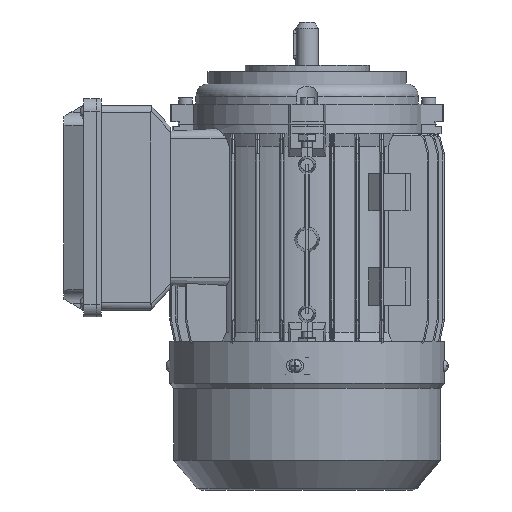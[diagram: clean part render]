
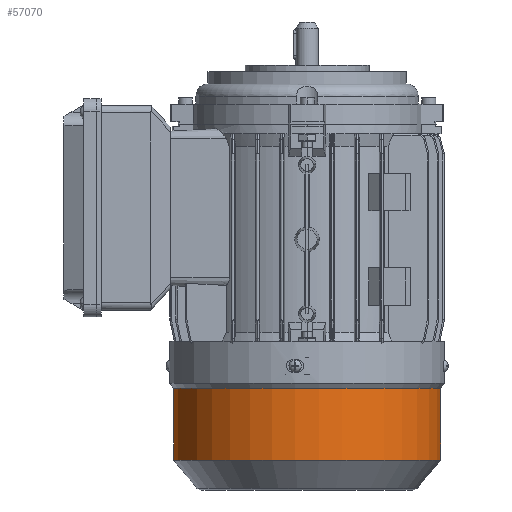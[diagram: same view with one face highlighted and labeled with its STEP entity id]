
A CAD part, left-side view. The second image highlights one B-rep face of the part: STEP entity #57070.
In plain terms, the highlighted cylindrical face has radius 54 mm (diameter 108 mm), a partial arc.
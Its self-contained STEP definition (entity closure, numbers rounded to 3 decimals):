
#2618 = ORIENTED_EDGE ( 'NONE', *, *, #19078, .F. ) ;
#2719 = ORIENTED_EDGE ( 'NONE', *, *, #19079, .T. ) ;
#9904 = FACE_OUTER_BOUND ( 'NONE', #38766, .T. ) ;
#9907 = CYLINDRICAL_SURFACE ( 'NONE', #11364, 54. ) ;
#11364 = AXIS2_PLACEMENT_3D ( 'NONE', #14594, #14592, #14590 ) ;
#14590 = DIRECTION ( 'NONE',  ( 0., 0., 1. ) ) ;
#14592 = DIRECTION ( 'NONE',  ( 0., 1., 0. ) ) ;
#14594 = CARTESIAN_POINT ( 'NONE',  ( 0., 66., 0. ) ) ;
#15613 = LINE ( 'NONE', #25968, #15622 ) ;
#15621 = LINE ( 'NONE', #25972, #15624 ) ;
#15622 = VECTOR ( 'NONE', #25965, 1000. ) ;
#15624 = VECTOR ( 'NONE', #25974, 1000. ) ;
#19078 = EDGE_CURVE ( 'NONE', #53698, #53652, #15613, .T. ) ;
#19079 = EDGE_CURVE ( 'NONE', #53077, #53341, #15621, .T. ) ;
#24577 = CARTESIAN_POINT ( 'NONE',  ( 0., -22.172, 54. ) ) ;
#24665 = CARTESIAN_POINT ( 'NONE',  ( 0., 6.828, 54. ) ) ;
#24785 = CARTESIAN_POINT ( 'NONE',  ( 0., 6.828, -54. ) ) ;
#24805 = CARTESIAN_POINT ( 'NONE',  ( 0., -22.172, -54. ) ) ;
#25965 = DIRECTION ( 'NONE',  ( 0., 1., 0. ) ) ;
#25968 = CARTESIAN_POINT ( 'NONE',  ( 0., 66., -54. ) ) ;
#25972 = CARTESIAN_POINT ( 'NONE',  ( 0., 66., 54. ) ) ;
#25974 = DIRECTION ( 'NONE',  ( 0., 1., 0. ) ) ;
#37490 = AXIS2_PLACEMENT_3D ( 'NONE', #58910, #58911, #58912 ) ;
#37491 = AXIS2_PLACEMENT_3D ( 'NONE', #58919, #58920, #58921 ) ;
#38766 = EDGE_LOOP ( 'NONE', ( #2618, #54343, #2719, #54338 ) ) ;
#41488 = EDGE_CURVE ( 'NONE', #53698, #53077, #58341, .T. ) ;
#41495 = EDGE_CURVE ( 'NONE', #53652, #53341, #58348, .T. ) ;
#53077 = VERTEX_POINT ( 'NONE', #24577 ) ;
#53341 = VERTEX_POINT ( 'NONE', #24665 ) ;
#53652 = VERTEX_POINT ( 'NONE', #24785 ) ;
#53698 = VERTEX_POINT ( 'NONE', #24805 ) ;
#54338 = ORIENTED_EDGE ( 'NONE', *, *, #41495, .F. ) ;
#54343 = ORIENTED_EDGE ( 'NONE', *, *, #41488, .T. ) ;
#57070 = ADVANCED_FACE ( 'NONE', ( #9904 ), #9907, .T. ) ;
#58341 = CIRCLE ( 'NONE', #37490, 54. ) ;
#58348 = CIRCLE ( 'NONE', #37491, 54. ) ;
#58910 = CARTESIAN_POINT ( 'NONE',  ( 0., -22.172, 0. ) ) ;
#58911 = DIRECTION ( 'NONE',  ( 0., 1., 0. ) ) ;
#58912 = DIRECTION ( 'NONE',  ( 0., 0., 1. ) ) ;
#58919 = CARTESIAN_POINT ( 'NONE',  ( 0., 6.828, 0. ) ) ;
#58920 = DIRECTION ( 'NONE',  ( 0., 1., 0. ) ) ;
#58921 = DIRECTION ( 'NONE',  ( 0., 0., 1. ) ) ;
